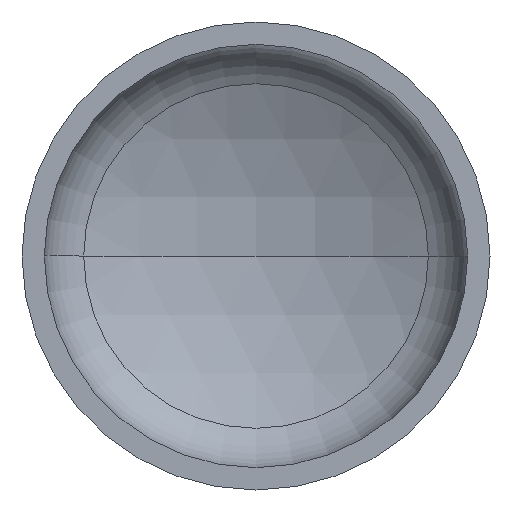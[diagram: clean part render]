
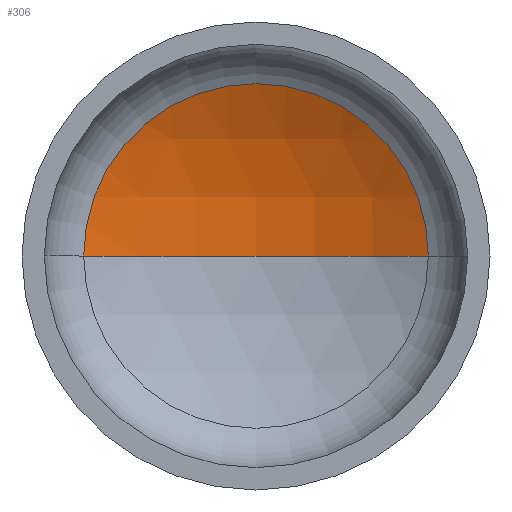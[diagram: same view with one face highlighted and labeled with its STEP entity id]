
A CAD part, front view. The second image highlights one B-rep face of the part: STEP entity #306.
In plain terms, the highlighted spherical face has radius 720 mm.
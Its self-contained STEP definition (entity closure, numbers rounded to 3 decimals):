
#6 = DIRECTION ( 'NONE',  ( 0., 0., 1. ) ) ;
#8 = AXIS2_PLACEMENT_3D ( 'NONE', #124, #246, #159 ) ;
#22 = ORIENTED_EDGE ( 'NONE', *, *, #77, .T. ) ;
#23 = AXIS2_PLACEMENT_3D ( 'NONE', #243, #6, #268 ) ;
#24 = AXIS2_PLACEMENT_3D ( 'NONE', #343, #199, #367 ) ;
#30 = AXIS2_PLACEMENT_3D ( 'NONE', #110, #290, #152 ) ;
#60 = ORIENTED_EDGE ( 'NONE', *, *, #76, .T. ) ;
#69 = ORIENTED_EDGE ( 'NONE', *, *, #80, .F. ) ;
#76 = EDGE_CURVE ( 'NONE', #131, #84, #205, .T. ) ;
#77 = EDGE_CURVE ( 'NONE', #104, #131, #141, .T. ) ;
#80 = EDGE_CURVE ( 'NONE', #104, #84, #318, .T. ) ;
#84 = VERTEX_POINT ( 'NONE', #389 ) ;
#104 = VERTEX_POINT ( 'NONE', #178 ) ;
#110 = CARTESIAN_POINT ( 'NONE',  ( 0., 254.284, 0. ) ) ;
#124 = CARTESIAN_POINT ( 'NONE',  ( 0., -384.889, 0. ) ) ;
#131 = VERTEX_POINT ( 'NONE', #154 ) ;
#132 = EDGE_LOOP ( 'NONE', ( #69, #22, #60 ) ) ;
#141 = CIRCLE ( 'NONE', #24, 720. ) ;
#152 = DIRECTION ( 'NONE',  ( 1., 0., 0. ) ) ;
#154 = CARTESIAN_POINT ( 'NONE',  ( 331.448, 254.284, 0. ) ) ;
#159 = DIRECTION ( 'NONE',  ( -1., 0., 0. ) ) ;
#175 = SPHERICAL_SURFACE ( 'NONE', #8, 720. ) ;
#178 = CARTESIAN_POINT ( 'NONE',  ( 0., 335.111, 0. ) ) ;
#199 = DIRECTION ( 'NONE',  ( 0., 0., -1. ) ) ;
#205 = CIRCLE ( 'NONE', #30, 331.448 ) ;
#236 = FACE_OUTER_BOUND ( 'NONE', #132, .T. ) ;
#243 = CARTESIAN_POINT ( 'NONE',  ( 0., -384.889, 0. ) ) ;
#246 = DIRECTION ( 'NONE',  ( 0., 0., -1. ) ) ;
#268 = DIRECTION ( 'NONE',  ( 1., 0., 0. ) ) ;
#290 = DIRECTION ( 'NONE',  ( 0., -1., 0. ) ) ;
#306 = ADVANCED_FACE ( 'NONE', ( #236 ), #175, .F. ) ;
#318 = CIRCLE ( 'NONE', #23, 720. ) ;
#343 = CARTESIAN_POINT ( 'NONE',  ( 0., -384.889, 0. ) ) ;
#367 = DIRECTION ( 'NONE',  ( -1., 0., 0. ) ) ;
#389 = CARTESIAN_POINT ( 'NONE',  ( -331.448, 254.284, 0. ) ) ;
